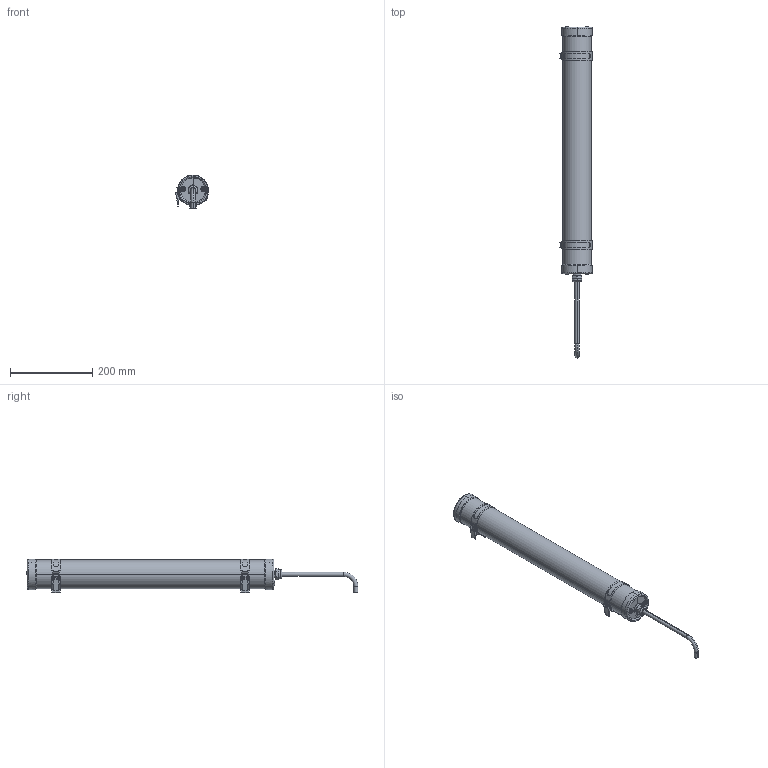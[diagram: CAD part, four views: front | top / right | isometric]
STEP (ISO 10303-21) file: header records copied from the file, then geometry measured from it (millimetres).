
FILE_DESCRIPTION(/* description */ (''),/* implementation_level */ '2;1');
FILE_NAME(/* name */ 'C:\Users\Franco Sartori E\Documents\FARO\DUPLICADO\Modelos\01_Digitalizados\2021\0_SCUBA\03_Publicación\75750.stp',/* time_stamp */ '2021-03-02T12:12:20+01:00',/* author */ ('Franco Sartori E'),/* organization */ (''),/* preprocessor_version */ 'ST-DEVELOPER v18.1',/* originating_system */ 'AutoCAD Mechanical',/* authorisation */ '');
FILE_SCHEMA (('AUTOMOTIVE_DESIGN { 1 0 10303 214 3 1 1 }'));
Length unit declared in the file: millimetre
Products named in the file (2): Product; SCUBA_Lamp - LAMP-482601-_3D_
Assembly tree (1 placements, depth 2):
  Product
    SCUBA_Lamp - LAMP-482601-_3D_
Bounding box: 79.25 x 808 x 82.5 mm (x, y, z)
Volume: 394033.8 mm3; surface area: 376195.2 mm2
Topology: 23 solids, 25 shells, 490 faces, 1210 edges, 750 vertices
Faces by surface type: plane 238, cylinder 180, torus 52, cone 20
Entity records: 17209 total; most frequent: CARTESIAN_POINT 5773, ORIENTED_EDGE 2372, DIRECTION 2274, EDGE_CURVE 1210, AXIS2_PLACEMENT_3D 785, VERTEX_POINT 750, LINE 704, VECTOR 704
